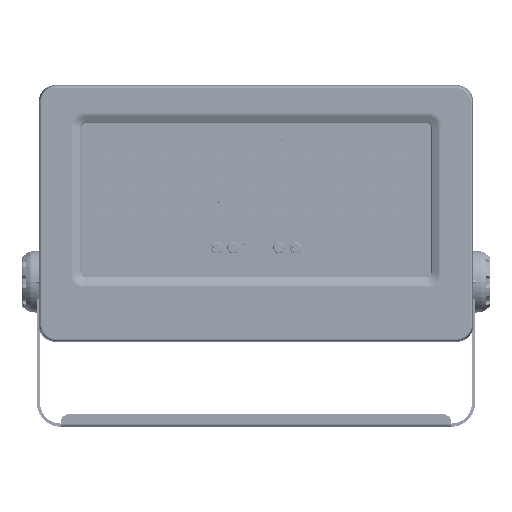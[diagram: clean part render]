
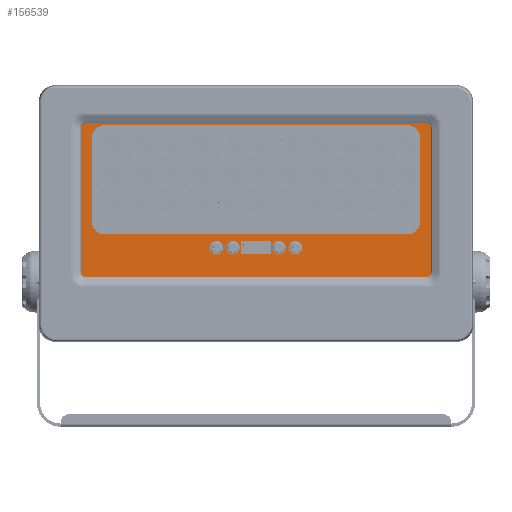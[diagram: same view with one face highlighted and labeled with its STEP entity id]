
A CAD part, top view. The second image highlights one B-rep face of the part: STEP entity #156539.
In plain terms, the highlighted planar face has unit normal (0, 0, 1).
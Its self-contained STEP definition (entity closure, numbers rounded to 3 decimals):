
#155964=CARTESIAN_POINT('',(-171.,76.,5.));
#155965=DIRECTION('',(0.,0.,1.));
#155966=DIRECTION('',(0.,1.,0.));
#155967=AXIS2_PLACEMENT_3D('',#155964,#155965,#155966);
#155969=DIRECTION('',(-1.,0.,0.));
#155970=VECTOR('',#155969,342.);
#155971=CARTESIAN_POINT('',(171.,82.,5.));
#155972=LINE('',#155971,#155970);
#155973=CARTESIAN_POINT('',(171.,76.,5.));
#155974=DIRECTION('',(0.,0.,1.));
#155975=DIRECTION('',(1.,0.,0.));
#155976=AXIS2_PLACEMENT_3D('',#155973,#155974,#155975);
#155978=DIRECTION('',(0.,1.,0.));
#155979=VECTOR('',#155978,152.);
#155980=CARTESIAN_POINT('',(177.,-76.,5.));
#155981=LINE('',#155980,#155979);
#155982=CARTESIAN_POINT('',(171.,-76.,5.));
#155983=DIRECTION('',(0.,0.,1.));
#155984=DIRECTION('',(0.,-1.,0.));
#155985=AXIS2_PLACEMENT_3D('',#155982,#155983,#155984);
#155987=DIRECTION('',(1.,0.,0.));
#155988=VECTOR('',#155987,342.);
#155989=CARTESIAN_POINT('',(-171.,-82.,5.));
#155990=LINE('',#155989,#155988);
#155991=CARTESIAN_POINT('',(-171.,-76.,5.));
#155992=DIRECTION('',(0.,0.,1.));
#155993=DIRECTION('',(-1.,0.,0.));
#155994=AXIS2_PLACEMENT_3D('',#155991,#155992,#155993);
#155996=DIRECTION('',(0.,-1.,0.));
#155997=VECTOR('',#155996,152.);
#155998=CARTESIAN_POINT('',(-177.,76.,5.));
#155999=LINE('',#155998,#155997);
#156000=CARTESIAN_POINT('',(146.,59.75,5.));
#156001=DIRECTION('',(0.,0.,1.));
#156002=DIRECTION('',(1.,0.,0.));
#156003=AXIS2_PLACEMENT_3D('',#156000,#156001,#156002);
#156005=DIRECTION('',(-1.,0.,0.));
#156006=VECTOR('',#156005,292.);
#156007=CARTESIAN_POINT('',(146.,72.75,5.));
#156008=LINE('',#156007,#156006);
#156009=CARTESIAN_POINT('',(-146.,59.75,5.));
#156010=DIRECTION('',(0.,0.,1.));
#156011=DIRECTION('',(0.,1.,0.));
#156012=AXIS2_PLACEMENT_3D('',#156009,#156010,#156011);
#156014=DIRECTION('',(0.,-1.,0.));
#156015=VECTOR('',#156014,80.);
#156016=CARTESIAN_POINT('',(-159.,59.75,5.));
#156017=LINE('',#156016,#156015);
#156018=CARTESIAN_POINT('',(-146.,-20.25,5.));
#156019=DIRECTION('',(0.,0.,1.));
#156020=DIRECTION('',(-1.,0.,0.));
#156021=AXIS2_PLACEMENT_3D('',#156018,#156019,#156020);
#156023=DIRECTION('',(1.,0.,0.));
#156024=VECTOR('',#156023,292.);
#156025=CARTESIAN_POINT('',(-146.,-33.25,5.));
#156026=LINE('',#156025,#156024);
#156027=CARTESIAN_POINT('',(146.,-20.25,5.));
#156028=DIRECTION('',(0.,0.,1.));
#156029=DIRECTION('',(0.,-1.,0.));
#156030=AXIS2_PLACEMENT_3D('',#156027,#156028,#156029);
#156032=DIRECTION('',(0.,1.,0.));
#156033=VECTOR('',#156032,80.);
#156034=CARTESIAN_POINT('',(159.,-20.25,5.));
#156035=LINE('',#156034,#156033);
#156036=CARTESIAN_POINT('',(-38.25,-46.,5.));
#156037=DIRECTION('',(0.,0.,1.));
#156038=DIRECTION('',(1.,0.,0.));
#156039=AXIS2_PLACEMENT_3D('',#156036,#156037,#156038);
#156041=CARTESIAN_POINT('',(-38.25,-46.,5.));
#156042=DIRECTION('',(0.,0.,1.));
#156043=DIRECTION('',(-1.,0.,0.));
#156044=AXIS2_PLACEMENT_3D('',#156041,#156042,#156043);
#156046=CARTESIAN_POINT('',(-22.25,-46.,5.));
#156047=DIRECTION('',(0.,0.,1.));
#156048=DIRECTION('',(1.,0.,0.));
#156049=AXIS2_PLACEMENT_3D('',#156046,#156047,#156048);
#156051=CARTESIAN_POINT('',(-22.25,-46.,5.));
#156052=DIRECTION('',(0.,0.,1.));
#156053=DIRECTION('',(-1.,0.,0.));
#156054=AXIS2_PLACEMENT_3D('',#156051,#156052,#156053);
#156056=CARTESIAN_POINT('',(22.25,-46.,5.));
#156057=DIRECTION('',(0.,0.,1.));
#156058=DIRECTION('',(1.,0.,0.));
#156059=AXIS2_PLACEMENT_3D('',#156056,#156057,#156058);
#156061=CARTESIAN_POINT('',(22.25,-46.,5.));
#156062=DIRECTION('',(0.,0.,1.));
#156063=DIRECTION('',(-1.,0.,0.));
#156064=AXIS2_PLACEMENT_3D('',#156061,#156062,#156063);
#156066=CARTESIAN_POINT('',(38.25,-46.,5.));
#156067=DIRECTION('',(0.,0.,1.));
#156068=DIRECTION('',(1.,0.,0.));
#156069=AXIS2_PLACEMENT_3D('',#156066,#156067,#156068);
#156071=CARTESIAN_POINT('',(38.25,-46.,5.));
#156072=DIRECTION('',(0.,0.,1.));
#156073=DIRECTION('',(-1.,0.,0.));
#156074=AXIS2_PLACEMENT_3D('',#156071,#156072,#156073);
#156076=DIRECTION('',(-1.,0.,0.));
#156077=VECTOR('',#156076,29.);
#156078=CARTESIAN_POINT('',(14.5,-39.5,5.));
#156079=LINE('',#156078,#156077);
#156080=DIRECTION('',(0.,-1.,0.));
#156081=VECTOR('',#156080,13.);
#156082=CARTESIAN_POINT('',(-14.5,-39.5,5.));
#156083=LINE('',#156082,#156081);
#156084=DIRECTION('',(1.,0.,0.));
#156085=VECTOR('',#156084,29.);
#156086=CARTESIAN_POINT('',(-14.5,-52.5,5.));
#156087=LINE('',#156086,#156085);
#156088=DIRECTION('',(0.,1.,0.));
#156089=VECTOR('',#156088,13.);
#156090=CARTESIAN_POINT('',(14.5,-52.5,5.));
#156091=LINE('',#156090,#156089);
#156176=CARTESIAN_POINT('',(-171.,82.,5.));
#156177=VERTEX_POINT('',#156176);
#156178=CARTESIAN_POINT('',(-177.,76.,5.));
#156179=VERTEX_POINT('',#156178);
#156184=CARTESIAN_POINT('',(-177.,-76.,5.));
#156185=VERTEX_POINT('',#156184);
#156186=CARTESIAN_POINT('',(-171.,-82.,5.));
#156187=VERTEX_POINT('',#156186);
#156192=CARTESIAN_POINT('',(171.,-82.,5.));
#156193=VERTEX_POINT('',#156192);
#156194=CARTESIAN_POINT('',(177.,-76.,5.));
#156195=VERTEX_POINT('',#156194);
#156200=CARTESIAN_POINT('',(177.,76.,5.));
#156201=VERTEX_POINT('',#156200);
#156202=CARTESIAN_POINT('',(171.,82.,5.));
#156203=VERTEX_POINT('',#156202);
#156220=CARTESIAN_POINT('',(159.,59.75,5.));
#156221=CARTESIAN_POINT('',(146.,72.75,5.));
#156222=VERTEX_POINT('',#156220);
#156223=VERTEX_POINT('',#156221);
#156224=CARTESIAN_POINT('',(-146.,72.75,5.));
#156225=VERTEX_POINT('',#156224);
#156226=CARTESIAN_POINT('',(-159.,59.75,5.));
#156227=VERTEX_POINT('',#156226);
#156228=CARTESIAN_POINT('',(-159.,-20.25,5.));
#156229=VERTEX_POINT('',#156228);
#156230=CARTESIAN_POINT('',(-146.,-33.25,5.));
#156231=VERTEX_POINT('',#156230);
#156232=CARTESIAN_POINT('',(146.,-33.25,5.));
#156233=VERTEX_POINT('',#156232);
#156234=CARTESIAN_POINT('',(159.,-20.25,5.));
#156235=VERTEX_POINT('',#156234);
#156252=CARTESIAN_POINT('',(-31.75,-46.,5.));
#156253=CARTESIAN_POINT('',(-44.75,-46.,5.));
#156254=VERTEX_POINT('',#156252);
#156255=VERTEX_POINT('',#156253);
#156256=CARTESIAN_POINT('',(-15.75,-46.,5.));
#156257=CARTESIAN_POINT('',(-28.75,-46.,5.));
#156258=VERTEX_POINT('',#156256);
#156259=VERTEX_POINT('',#156257);
#156260=CARTESIAN_POINT('',(28.75,-46.,5.));
#156261=CARTESIAN_POINT('',(15.75,-46.,5.));
#156262=VERTEX_POINT('',#156260);
#156263=VERTEX_POINT('',#156261);
#156264=CARTESIAN_POINT('',(44.75,-46.,5.));
#156265=CARTESIAN_POINT('',(31.75,-46.,5.));
#156266=VERTEX_POINT('',#156264);
#156267=VERTEX_POINT('',#156265);
#156276=CARTESIAN_POINT('',(14.5,-39.5,5.));
#156277=CARTESIAN_POINT('',(-14.5,-39.5,5.));
#156278=VERTEX_POINT('',#156276);
#156279=VERTEX_POINT('',#156277);
#156280=CARTESIAN_POINT('',(-14.5,-52.5,5.));
#156281=VERTEX_POINT('',#156280);
#156282=CARTESIAN_POINT('',(14.5,-52.5,5.));
#156283=VERTEX_POINT('',#156282);
#156472=CARTESIAN_POINT('',(0.,0.,5.));
#156473=DIRECTION('',(0.,0.,1.));
#156474=DIRECTION('',(1.,0.,0.));
#156475=AXIS2_PLACEMENT_3D('',#156472,#156473,#156474);
#156476=PLANE('',#156475);
#156477=ORIENTED_EDGE('',*,*,#156368,.F.);
#156478=ORIENTED_EDGE('',*,*,#156384,.F.);
#156479=ORIENTED_EDGE('',*,*,#156397,.F.);
#156480=ORIENTED_EDGE('',*,*,#156410,.F.);
#156481=ORIENTED_EDGE('',*,*,#156425,.F.);
#156482=ORIENTED_EDGE('',*,*,#156438,.F.);
#156483=ORIENTED_EDGE('',*,*,#156453,.F.);
#156484=ORIENTED_EDGE('',*,*,#156465,.F.);
#156485=EDGE_LOOP('',(#156477,#156478,#156479,#156480,#156481,#156482,#156483,
#156484));
#156486=FACE_OUTER_BOUND('',#156485,.F.);
#156488=ORIENTED_EDGE('',*,*,#156487,.T.);
#156490=ORIENTED_EDGE('',*,*,#156489,.T.);
#156492=ORIENTED_EDGE('',*,*,#156491,.T.);
#156494=ORIENTED_EDGE('',*,*,#156493,.T.);
#156496=ORIENTED_EDGE('',*,*,#156495,.T.);
#156498=ORIENTED_EDGE('',*,*,#156497,.T.);
#156500=ORIENTED_EDGE('',*,*,#156499,.T.);
#156502=ORIENTED_EDGE('',*,*,#156501,.T.);
#156503=EDGE_LOOP('',(#156488,#156490,#156492,#156494,#156496,#156498,#156500,
#156502));
#156504=FACE_BOUND('',#156503,.F.);
#156506=ORIENTED_EDGE('',*,*,#156505,.T.);
#156508=ORIENTED_EDGE('',*,*,#156507,.T.);
#156509=EDGE_LOOP('',(#156506,#156508));
#156510=FACE_BOUND('',#156509,.F.);
#156512=ORIENTED_EDGE('',*,*,#156511,.T.);
#156514=ORIENTED_EDGE('',*,*,#156513,.T.);
#156515=EDGE_LOOP('',(#156512,#156514));
#156516=FACE_BOUND('',#156515,.F.);
#156518=ORIENTED_EDGE('',*,*,#156517,.T.);
#156520=ORIENTED_EDGE('',*,*,#156519,.T.);
#156521=EDGE_LOOP('',(#156518,#156520));
#156522=FACE_BOUND('',#156521,.F.);
#156524=ORIENTED_EDGE('',*,*,#156523,.T.);
#156526=ORIENTED_EDGE('',*,*,#156525,.T.);
#156527=EDGE_LOOP('',(#156524,#156526));
#156528=FACE_BOUND('',#156527,.F.);
#156530=ORIENTED_EDGE('',*,*,#156529,.T.);
#156532=ORIENTED_EDGE('',*,*,#156531,.T.);
#156534=ORIENTED_EDGE('',*,*,#156533,.T.);
#156536=ORIENTED_EDGE('',*,*,#156535,.T.);
#156537=EDGE_LOOP('',(#156530,#156532,#156534,#156536));
#156538=FACE_BOUND('',#156537,.F.);
#156539=ADVANCED_FACE('',(#156486,#156504,#156510,#156516,#156522,#156528,
#156538),#156476,.T.);
#155968=CIRCLE('',#155967,6.);
#155977=CIRCLE('',#155976,6.);
#155986=CIRCLE('',#155985,6.);
#155995=CIRCLE('',#155994,6.);
#156004=CIRCLE('',#156003,13.);
#156013=CIRCLE('',#156012,13.);
#156022=CIRCLE('',#156021,13.);
#156031=CIRCLE('',#156030,13.);
#156040=CIRCLE('',#156039,6.5);
#156045=CIRCLE('',#156044,6.5);
#156050=CIRCLE('',#156049,6.5);
#156055=CIRCLE('',#156054,6.5);
#156060=CIRCLE('',#156059,6.5);
#156065=CIRCLE('',#156064,6.5);
#156070=CIRCLE('',#156069,6.5);
#156075=CIRCLE('',#156074,6.5);
#156368=EDGE_CURVE('',#156177,#156179,#155968,.T.);
#156384=EDGE_CURVE('',#156203,#156177,#155972,.T.);
#156397=EDGE_CURVE('',#156201,#156203,#155977,.T.);
#156410=EDGE_CURVE('',#156195,#156201,#155981,.T.);
#156425=EDGE_CURVE('',#156193,#156195,#155986,.T.);
#156438=EDGE_CURVE('',#156187,#156193,#155990,.T.);
#156453=EDGE_CURVE('',#156185,#156187,#155995,.T.);
#156465=EDGE_CURVE('',#156179,#156185,#155999,.T.);
#156487=EDGE_CURVE('',#156222,#156223,#156004,.T.);
#156489=EDGE_CURVE('',#156223,#156225,#156008,.T.);
#156491=EDGE_CURVE('',#156225,#156227,#156013,.T.);
#156493=EDGE_CURVE('',#156227,#156229,#156017,.T.);
#156495=EDGE_CURVE('',#156229,#156231,#156022,.T.);
#156497=EDGE_CURVE('',#156231,#156233,#156026,.T.);
#156499=EDGE_CURVE('',#156233,#156235,#156031,.T.);
#156501=EDGE_CURVE('',#156235,#156222,#156035,.T.);
#156505=EDGE_CURVE('',#156254,#156255,#156040,.T.);
#156507=EDGE_CURVE('',#156255,#156254,#156045,.T.);
#156511=EDGE_CURVE('',#156258,#156259,#156050,.T.);
#156513=EDGE_CURVE('',#156259,#156258,#156055,.T.);
#156517=EDGE_CURVE('',#156262,#156263,#156060,.T.);
#156519=EDGE_CURVE('',#156263,#156262,#156065,.T.);
#156523=EDGE_CURVE('',#156266,#156267,#156070,.T.);
#156525=EDGE_CURVE('',#156267,#156266,#156075,.T.);
#156529=EDGE_CURVE('',#156278,#156279,#156079,.T.);
#156531=EDGE_CURVE('',#156279,#156281,#156083,.T.);
#156533=EDGE_CURVE('',#156281,#156283,#156087,.T.);
#156535=EDGE_CURVE('',#156283,#156278,#156091,.T.);
